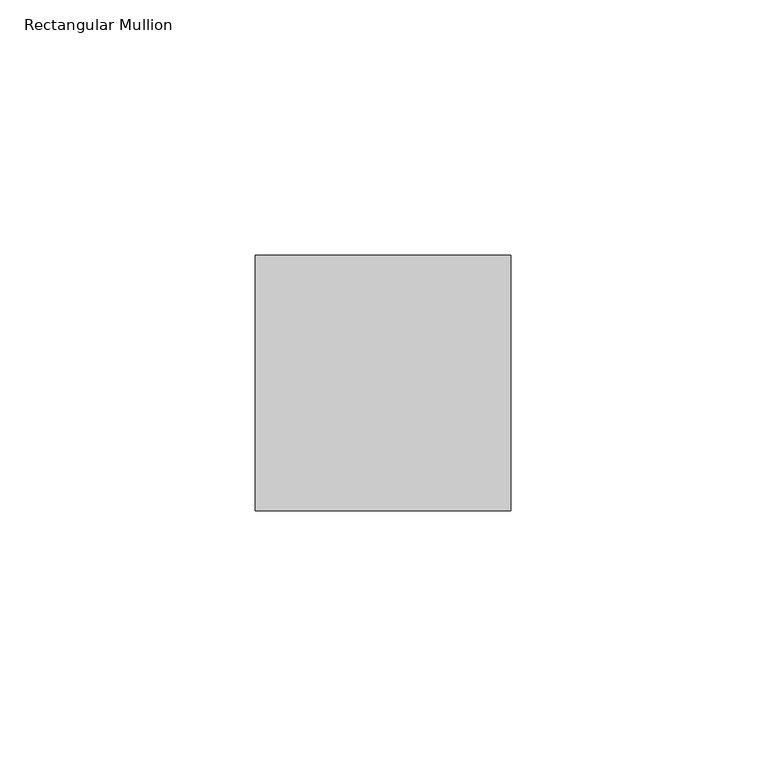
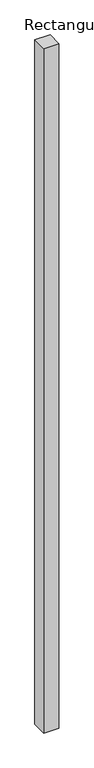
"""IFC4 building model written with IfcOpenShell, lengths in millimetres: member geometry, Rectangular Mullion : Mullion_Curtain Wall_Generic Showcase_50x50mm."""

import ifcopenshell
import ifcopenshell.guid

model = None  # the IFC model being written
_history = None  # IfcOwnerHistory: only IFC2X3 demands one
_inside = {}  # id of a spatial element -> (the spatial element, [elements in it])
_under = {}  # id of a project, library or spatial element -> (it, [spatial elements below it])
_declared = {}  # id of a project -> (the project, [libraries it declares])
_typed = {}  # id of a type object -> (the type object, [elements of that type])
_made_of = {}  # id of a material, layer set ... -> (it, [elements and type objects made of it])


def new_model(schema):
    """Start an empty IFC model of exactly this schema.

    Asked for "IFC4X3", IfcOpenShell would pick the latest addendum, in which some entities
    have other attributes; the version numbers below select the first issue.
    IFC2X3 requires an IfcOwnerHistory on every rooted entity: one is made here for all.
    """
    global model, _history
    if schema == "IFC4X3":
        model = ifcopenshell.file(schema_version=(4, 3, 0, 0))
    else:
        model = ifcopenshell.file(schema=schema)
    _inside.clear()
    _under.clear()
    _declared.clear()
    _typed.clear()
    _made_of.clear()
    _history = None
    if model.schema == "IFC2X3":
        org = make("IfcOrganization", Name="unknown")
        user = make(
            "IfcPersonAndOrganization",
            ThePerson=make("IfcPerson", FamilyName="unknown"),
            TheOrganization=org,
        )
        app = make(
            "IfcApplication",
            ApplicationDeveloper=org,
            Version="unknown",
            ApplicationFullName="unknown",
            ApplicationIdentifier="unknown",
        )
        _history = make(
            "IfcOwnerHistory",
            OwningUser=user,
            OwningApplication=app,
            ChangeAction="ADDED",
            CreationDate=0,
        )
    return model


def make(cls, **values):
    """One entity of the class cls with the attributes given. An attribute that is None is left unset."""
    return model.create_entity(
        cls, **{name: value for name, value in values.items() if value is not None}
    )


def rooted(cls, **values):
    """An entity with a GlobalId (a new one), such as an element, a storey or a relation."""
    return make(cls, GlobalId=ifcopenshell.guid.new(), OwnerHistory=_history, **values)


def si_unit(unit_type, name, prefix=None):
    """IfcSIUnit, for example si_unit("LENGTHUNIT", "METRE", prefix="MILLI")."""
    return make("IfcSIUnit", UnitType=unit_type, Prefix=prefix, Name=name)


def assignment(units):
    """IfcUnitAssignment: the units of a project."""
    return None if units is None else make("IfcUnitAssignment", Units=units)


def point(xyz):
    """IfcCartesianPoint."""
    return None if xyz is None else make("IfcCartesianPoint", Coordinates=xyz)


def direction(xyz):
    """IfcDirection."""
    return None if xyz is None else make("IfcDirection", DirectionRatios=xyz)


def frame(location, z_axis=None, x_axis=None):
    """IfcAxis2Placement3D, a coordinate frame: its origin and axes. An axis left out is left unset."""
    return make(
        "IfcAxis2Placement3D",
        Location=point(location),
        Axis=direction(z_axis),
        RefDirection=direction(x_axis),
    )


def origin():
    """The frame at (0, 0, 0) with its axes left unset."""
    return frame((0.0, 0.0, 0.0))


def place(relative_to, where):
    """IfcLocalPlacement: puts the frame where relative to a parent placement (None: the world)."""
    return make(
        "IfcLocalPlacement", PlacementRelTo=relative_to, RelativePlacement=where
    )


def context(
    kind, dimensions, precision=None, world=None, true_north=None, identifier=None
):
    """IfcGeometricRepresentationContext, for example the 3D "Model" context."""
    return make(
        "IfcGeometricRepresentationContext",
        ContextIdentifier=identifier,
        ContextType=kind,
        CoordinateSpaceDimension=dimensions,
        Precision=precision,
        WorldCoordinateSystem=world,
        TrueNorth=true_north,
    )


def project(units=None, contexts=None):
    """IfcProject with its units and contexts."""
    return rooted(
        "IfcProject",
        Name="project",
        RepresentationContexts=contexts,
        UnitsInContext=assignment(units),
    )


def spatial(cls, under=None, at=None, **own):
    """A site, building, storey or space (cls), placed at a placement, below another one or the project."""
    s = rooted(cls, ObjectPlacement=at, **own)
    if under is not None:
        _under.setdefault(under.id(), (under, []))[1].append(s)
    return s


def polyline(points):
    """IfcPolyline through the points."""
    return make("IfcPolyline", Points=[point(p) for p in points])


def outline(outer, holes=None, kind="AREA"):
    """IfcArbitraryClosedProfileDef: a profile drawn as a closed curve; with holes, ...WithVoids."""
    if holes is None:
        return make("IfcArbitraryClosedProfileDef", ProfileType=kind, OuterCurve=outer)
    return make(
        "IfcArbitraryProfileDefWithVoids",
        ProfileType=kind,
        OuterCurve=outer,
        InnerCurves=holes,
    )


def extrude(swept, where, along, depth):
    """IfcExtrudedAreaSolid: the profile swept, set in the frame where, extruded along a direction by depth."""
    return make(
        "IfcExtrudedAreaSolid",
        SweptArea=swept,
        Position=where,
        ExtrudedDirection=direction(along),
        Depth=depth,
    )


def shape(context_of_items, identifier, shape_type, items):
    """IfcShapeRepresentation: the items that make up one representation, for example the "Body"."""
    return make(
        "IfcShapeRepresentation",
        ContextOfItems=context_of_items,
        RepresentationIdentifier=identifier,
        RepresentationType=shape_type,
        Items=items,
    )


def source(mapping_origin, context_of_items, identifier, shape_type, items):
    """IfcRepresentationMap: a shape defined once, which mapped items show again and again."""
    return make(
        "IfcRepresentationMap",
        MappingOrigin=mapping_origin,
        MappedRepresentation=shape(context_of_items, identifier, shape_type, items),
    )


def transform(
    local_origin,
    x_axis=None,
    y_axis=None,
    z_axis=None,
    scale=None,
    scale2=None,
    scale3=None,
    uniform=True,
):
    """IfcCartesianTransformationOperator3D, or its non-uniform kind. x_axis, y_axis, z_axis: its Axis1, 2, 3."""
    if uniform:
        return make(
            "IfcCartesianTransformationOperator3D",
            Axis1=direction(x_axis),
            Axis2=direction(y_axis),
            LocalOrigin=point(local_origin),
            Scale=scale,
            Axis3=direction(z_axis),
        )
    return make(
        "IfcCartesianTransformationOperator3DnonUniform",
        Axis1=direction(x_axis),
        Axis2=direction(y_axis),
        LocalOrigin=point(local_origin),
        Scale=scale,
        Axis3=direction(z_axis),
        Scale2=scale2,
        Scale3=scale3,
    )


def mapped(mapping_source, mapping_target):
    """IfcMappedItem: shows the shape of a source again, moved by a transform."""
    return make(
        "IfcMappedItem", MappingSource=mapping_source, MappingTarget=mapping_target
    )


def made_of(thing, what):
    """Note that an element or type object is made of a material, layer set ...; save() writes the relation."""
    if what is not None:
        _made_of.setdefault(what.id(), (what, []))[1].append(thing)
    return thing


def element(
    cls,
    number,
    at=None,
    inside=None,
    cuts=None,
    type_object=None,
    material=None,
    context=None,
    identifier="Body",
    shape_type=None,
    held_by="IfcProductDefinitionShape",
    body=None,
    shapes=None,
    **own,
):
    """One element of the class cls, such as IfcWall. Its Tag is "e" and its number.

    at: its placement. inside: the storey or other place that contains it. cuts: it is an
    opening in that element (IfcRelVoidsElement). A single representation is given by context,
    identifier, shape_type and body (its items); several are given by shapes. held_by: the class
    of the entity that holds the representations. save() writes the other relations.
    """
    e = rooted(cls, Tag="e%d" % number, ObjectPlacement=at, **own)
    if body is not None:
        shapes = [shape(context, identifier, shape_type, body)]
    if shapes is not None:
        e.Representation = make(held_by, Representations=shapes)
    if inside is not None:
        _inside.setdefault(inside.id(), (inside, []))[1].append(e)
    if cuts is not None:
        rooted(
            "IfcRelVoidsElement", RelatingBuildingElement=cuts, RelatedOpeningElement=e
        )
    if type_object is not None:
        _typed.setdefault(type_object.id(), (type_object, []))[1].append(e)
    return made_of(e, material)


def aggregate(whole, parts):
    """IfcRelAggregates: a whole, such as a stair, and the parts it consists of."""
    return rooted("IfcRelAggregates", RelatingObject=whole, RelatedObjects=parts)


def save(model, path):
    """Write the relations noted so far, then the file.

    IfcRelAggregates (storeys below a building ...), IfcRelContainedInSpatialStructure (elements
    in a storey), IfcRelDefinesByType, IfcRelAssociatesMaterial and IfcRelDeclares: one each for
    every whole, place, type object, material and project.
    """
    for whole, parts in _under.values():
        aggregate(whole, parts)
    for where, things in _inside.values():
        rooted(
            "IfcRelContainedInSpatialStructure",
            RelatedElements=things,
            RelatingStructure=where,
        )
    for kind, things in _typed.values():
        rooted("IfcRelDefinesByType", RelatedObjects=things, RelatingType=kind)
    for what, things in _made_of.values():
        rooted("IfcRelAssociatesMaterial", RelatedObjects=things, RelatingMaterial=what)
    for by, libraries in _declared.values():
        rooted("IfcRelDeclares", RelatingContext=by, RelatedDefinitions=libraries)
    model.write(path)


def rectangular_mullion_461e8916(model_context):
    return source(origin(), model_context, "Body", "SweptSolid", [
        extrude(outline(polyline([(25.0, 50.0), (25.0, 0.0), (-25.0, 0.0), (-25.0, 50.0), (25.0, 50.0)])), frame((0.0, 0.0, -2375.0), z_axis=(0.0, 0.0, 1.0), x_axis=(1.0, 0.0, 0.0)), (0.0, 0.0, 1.0), 2375.0),
    ])


if __name__ == "__main__":
    model = new_model("IFC4")
    model_context = context("Model", 3, world=origin())
    ifc_project = project(units=[si_unit("LENGTHUNIT", "METRE", prefix="MILLI")], contexts=[model_context])
    site = spatial("IfcSite", under=ifc_project)
    building = spatial("IfcBuilding", under=site)
    placement = place(None, origin())
    rectangular_mullion_shape = rectangular_mullion_461e8916(model_context)
    element("IfcMember", 1, ObjectType="Rectangular Mullion : Mullion_Curtain Wall_Generic Showcase_50x50mm", at=placement, inside=building, context=model_context, shape_type="MappedRepresentation", body=[
        mapped(rectangular_mullion_shape, transform((0.0, 0.0, 0.0), x_axis=(1.0, 0.0, 0.0), y_axis=(0.0, 1.0, 0.0), z_axis=(0.0, 0.0, 1.0))),
    ])
    save(model, "model.ifc")
